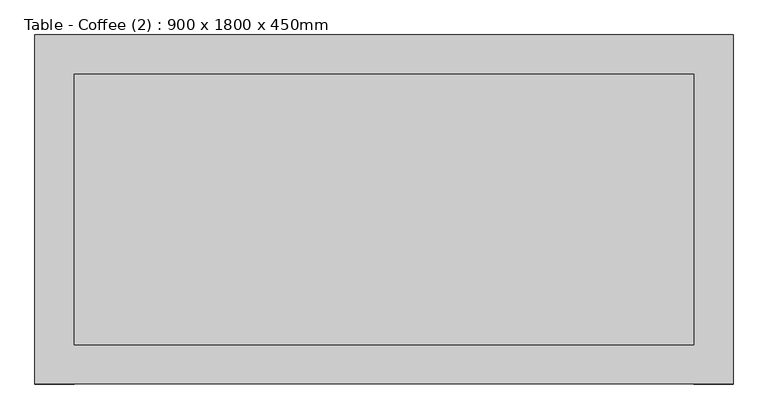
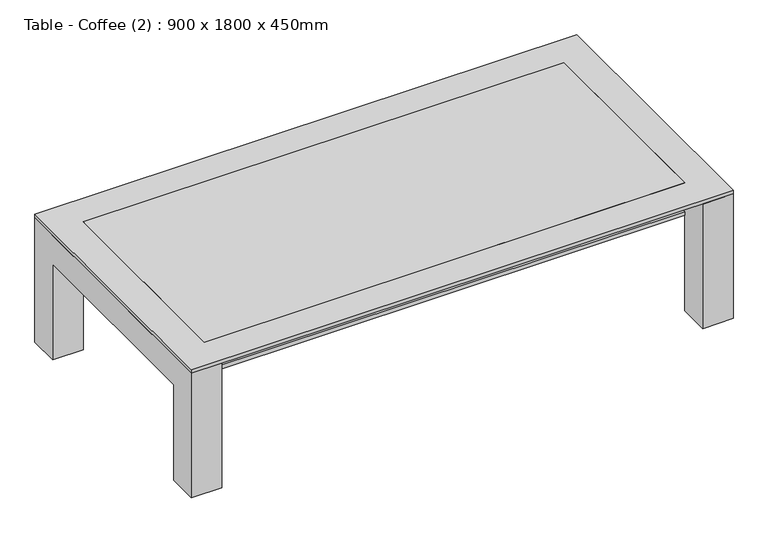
"""IFC4 building model written with IfcOpenShell, lengths in millimetres: furniture geometry, Table - Coffee (2) : 900 x 1800 x 450mm."""

from ifc_helpers import new_model, si_unit, frame, origin, place, context, project, spatial, polyline, outline, extrude, source, transform, mapped, element, save


def table_coffee_2_900_x_1800_x_450mm_279d784c(model_context):
    return source(origin(), model_context, "Body", "SweptSolid", [
        extrude(outline(polyline([(816.6657667, 443.6110778), (816.6657667, -253.1889222), (-780.1342333, -253.1889222), (-780.1342333, 443.6110778), (816.6657667, 443.6110778)])), frame((0.0, 0.0, 335.7), z_axis=(0.0, 0.0, 1.0), x_axis=(1.0, 0.0, 0.0)), (0.0, 0.0, 1.0), 12.7),
        extrude(outline(polyline([(545.2110778, 0.0), (443.6110778, 0.0), (443.6110778, 335.7), (-253.1889222, 335.7), (-253.1889222, 0.0), (-354.7889222, 0.0), (-354.7889222, 437.3), (545.2110778, 437.3), (545.2110778, 0.0)])), frame((816.6657667, 0.0, 0.0), z_axis=(1.0, 0.0, 0.0), x_axis=(0.0, 1.0, 0.0)), (0.0, 0.0, 1.0), 101.6),
        extrude(outline(polyline([(545.2110778, 437.3), (545.2110778, 0.0), (443.6110778, 0.0), (443.6110778, 335.7), (-253.1889222, 335.7), (-253.1889222, 0.0), (-354.7889222, 0.0), (-354.7889222, 437.3), (545.2110778, 437.3)])), frame((-881.7342333, 0.0, 0.0), z_axis=(1.0, 0.0, 0.0), x_axis=(0.0, 1.0, 0.0)), (0.0, 0.0, 1.0), 101.6),
        extrude(outline(polyline([(816.6657667, 443.6110778), (816.6657667, -253.1889222), (-780.1342333, -253.1889222), (-780.1342333, 443.6110778), (816.6657667, 443.6110778)])), frame((0.0, 0.0, 437.3), z_axis=(0.0, 0.0, 1.0), x_axis=(1.0, 0.0, 0.0)), (0.0, 0.0, 1.0), 12.7),
        extrude(outline(polyline([(918.2657667, 545.2110778), (918.2657667, -354.7889222), (-881.7342333, -354.7889222), (-881.7342333, 545.2110778), (918.2657667, 545.2110778)]), holes=[polyline([(816.6657667, 443.6110778), (-780.1342333, 443.6110778), (-780.1342333, -253.1889222), (816.6657667, -253.1889222), (816.6657667, 443.6110778)])]), frame((0.0, 0.0, 437.3), z_axis=(0.0, 0.0, 1.0), x_axis=(1.0, 0.0, 0.0)), (0.0, 0.0, 1.0), 12.7),
    ])


if __name__ == "__main__":
    model = new_model("IFC4")
    model_context = context("Model", 3, world=origin())
    ifc_project = project(units=[si_unit("LENGTHUNIT", "METRE", prefix="MILLI")], contexts=[model_context])
    site = spatial("IfcSite", under=ifc_project)
    building = spatial("IfcBuilding", under=site)
    placement = place(None, origin())
    table_coffee_2_900_x_1800_x_450mm_shape = table_coffee_2_900_x_1800_x_450mm_279d784c(model_context)
    element("IfcFurniture", 1, ObjectType="Table - Coffee (2) : 900 x 1800 x 450mm", at=placement, inside=building, context=model_context, shape_type="MappedRepresentation", body=[
        mapped(table_coffee_2_900_x_1800_x_450mm_shape, transform((0.0, 0.0, 0.0), x_axis=(1.0, 0.0, 0.0), y_axis=(0.0, 1.0, 0.0), z_axis=(0.0, 0.0, 1.0))),
    ])
    save(model, "model.ifc")
